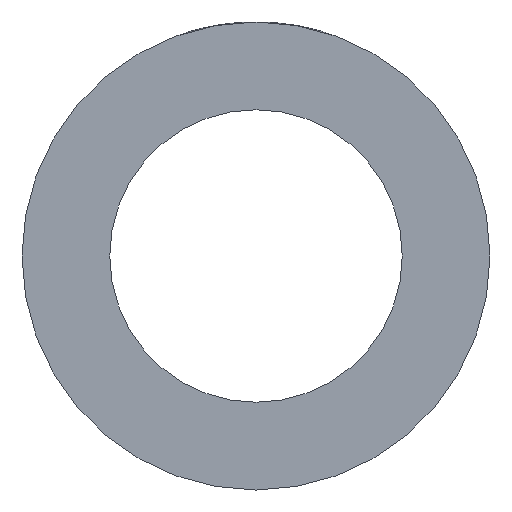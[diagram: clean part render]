
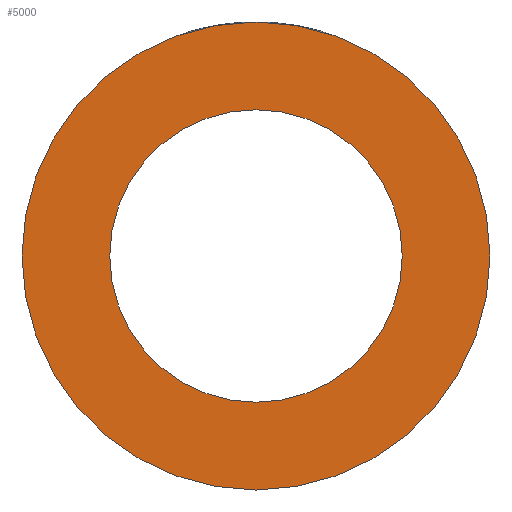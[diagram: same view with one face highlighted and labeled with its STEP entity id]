
A CAD part, left-side view. The second image highlights one B-rep face of the part: STEP entity #5000.
In plain terms, the highlighted planar face has unit normal (-1, 0, 0).
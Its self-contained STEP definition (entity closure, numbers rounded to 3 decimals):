
#117=PLANE('',#5385);
#341=CIRCLE('',#5384,20.);
#342=CIRCLE('',#5386,12.5);
#1490=ORIENTED_EDGE('',*,*,#3002,.T.);
#1491=ORIENTED_EDGE('',*,*,#3001,.F.);
#3001=EDGE_CURVE('',#3757,#3757,#341,.T.);
#3002=EDGE_CURVE('',#3758,#3758,#342,.T.);
#3757=VERTEX_POINT('',#7866);
#3758=VERTEX_POINT('',#7869);
#4267=EDGE_LOOP('',(#1490));
#4268=EDGE_LOOP('',(#1491));
#4628=FACE_BOUND('',#4267,.T.);
#4629=FACE_BOUND('',#4268,.T.);
#5000=ADVANCED_FACE('',(#4628,#4629),#117,.F.);
#5384=AXIS2_PLACEMENT_3D('',#7865,#5888,#5889);
#5385=AXIS2_PLACEMENT_3D('',#7867,#5890,#5891);
#5386=AXIS2_PLACEMENT_3D('',#7868,#5892,#5893);
#5888=DIRECTION('',(1.,0.,0.));
#5889=DIRECTION('',(0.,0.,-1.));
#5890=DIRECTION('',(1.,0.,0.));
#5891=DIRECTION('',(0.,0.,-1.));
#5892=DIRECTION('',(1.,0.,0.));
#5893=DIRECTION('',(0.,0.,-1.));
#7865=CARTESIAN_POINT('',(-29.5,0.,0.));
#7866=CARTESIAN_POINT('',(-29.5,0.,-20.));
#7867=CARTESIAN_POINT('',(-29.5,0.,0.));
#7868=CARTESIAN_POINT('',(-29.5,0.,0.));
#7869=CARTESIAN_POINT('',(-29.5,0.,-12.5));
